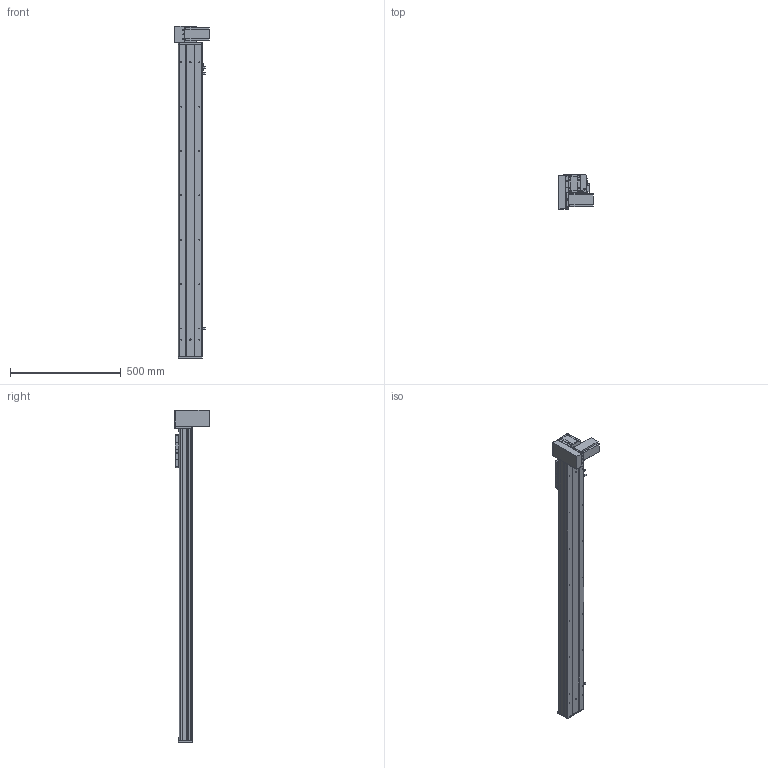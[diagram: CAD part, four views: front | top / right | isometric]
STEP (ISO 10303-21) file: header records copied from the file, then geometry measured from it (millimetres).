
FILE_DESCRIPTION (( 'STEP AP203' ), '1' );
FILE_NAME ('Y10CB-D90-S1150-BM-P400W.STEP', '2020-02-16T09:05:27', ( '微软用户' ), ( '微软中国' ), 'SwSTEP 2.0', 'SolidWorks 2017', '' );
FILE_SCHEMA (( 'CONFIG_CONTROL_DESIGN' ));
Length unit declared in the file: millimetre
Products named in the file (18): Y10CB-D90-S1150-BM-P400W; Y10C---詩湍揤啣; 0Cb-俋欶---; 10CB9-掛极; Y10B-々湍喘謫眊楊擘啣--; 10CB-耜裔; 0B-萇儂楊擘啣; Y135C-陔俋离換覜結え-; san松下电机400不带刹车----; Y100-135俋离換覜ん--; 0B-源倛裔啣; Y10B--々湍喘謫眊--666; 0B-埴倛裔啣; 00B-俋欶BM--; 10CB-詩湍-; Y10B-耜蚾蟀諉啣----; Y10CB- 掛极耜裔啣-毀---; 0CB-雄赽釱---
Assembly tree (21 placements, depth 2):
  Y10CB-D90-S1150-BM-P400W
    0CB-雄赽釱---
    0Cb-俋欶---
    Y10B-々湍喘謫眊楊擘啣--
    0B-萇儂楊擘啣
    san松下电机400不带刹车----
    0B-源倛裔啣
    0B-埴倛裔啣
    10CB-詩湍-
    Y10CB- 掛极耜裔啣-毀---  x2
    Y10C---詩湍揤啣  x2
    10CB9-掛极
    10CB-耜裔
    Y135C-陔俋离換覜結え-
    Y100-135俋离換覜ん--  x3
    Y10B--々湍喘謫眊--666
    00B-俋欶BM--
    Y10B-耜蚾蟀諉啣----
Bounding box: 157 x 156 x 1496 mm (x, y, z)
Volume: 3397520.5 mm3; surface area: 1543688.6 mm2
Topology: 21 solids, 21 shells, 1002 faces, 2683 edges, 1754 vertices
Faces by surface type: cylinder 499, plane 479, cone 24
Entity records: 31412 total; most frequent: CARTESIAN_POINT 5617, DIRECTION 5066, ORIENTED_EDGE 4836, EDGE_CURVE 2418, AXIS2_PLACEMENT_3D 1813, VERTEX_POINT 1580, VECTOR 1440, LINE 1440
